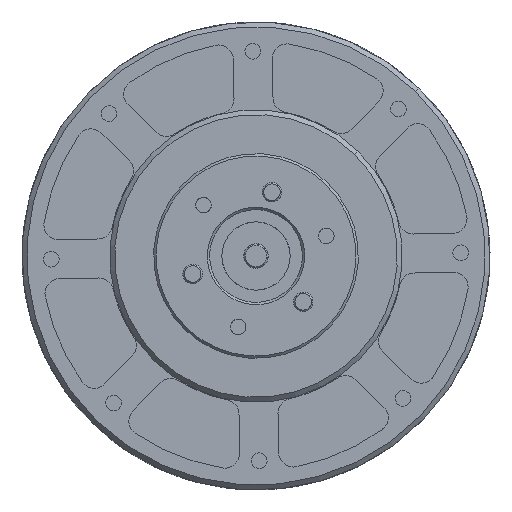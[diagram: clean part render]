
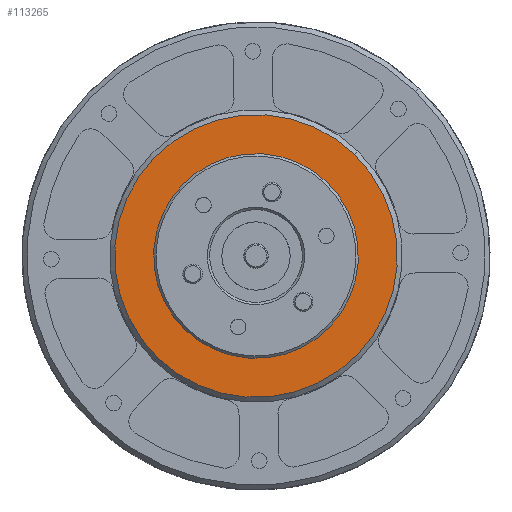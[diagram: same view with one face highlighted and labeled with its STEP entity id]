
A CAD part, left-side view. The second image highlights one B-rep face of the part: STEP entity #113265.
In plain terms, the highlighted planar face has unit normal (-1, 0, 0).
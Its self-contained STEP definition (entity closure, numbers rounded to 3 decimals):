
#2593 = CARTESIAN_POINT ( 'NONE',  ( 685.719, 227.693, 0. ) ) ;
#11439 = AXIS2_PLACEMENT_3D ( 'NONE', #2593, #199013, #58847 ) ;
#18013 = DIRECTION ( 'NONE',  ( 0., 0., 1. ) ) ;
#19945 = DIRECTION ( 'NONE',  ( 0., 0., -1. ) ) ;
#20762 = EDGE_CURVE ( 'NONE', #303356, #36987, #43434, .T. ) ;
#22755 = FACE_BOUND ( 'NONE', #134360, .T. ) ;
#36987 = VERTEX_POINT ( 'NONE', #125459 ) ;
#38526 = ORIENTED_EDGE ( 'NONE', *, *, #51524, .T. ) ;
#42191 = PLANE ( 'NONE',  #196382 ) ;
#43434 = CIRCLE ( 'NONE', #120591, 21. ) ;
#48850 = VERTEX_POINT ( 'NONE', #133911 ) ;
#51524 = EDGE_CURVE ( 'NONE', #36987, #303356, #296561, .T. ) ;
#58847 = DIRECTION ( 'NONE',  ( 0., 0., -1. ) ) ;
#90485 = FACE_OUTER_BOUND ( 'NONE', #138164, .T. ) ;
#113265 = ADVANCED_FACE ( 'NONE', ( #90485, #22755 ), #42191, .T. ) ;
#120591 = AXIS2_PLACEMENT_3D ( 'NONE', #195402, #266235, #242085 ) ;
#125459 = CARTESIAN_POINT ( 'NONE',  ( 685.719, 227.693, -21. ) ) ;
#133911 = CARTESIAN_POINT ( 'NONE',  ( 685.719, 227.693, -29. ) ) ;
#134360 = EDGE_LOOP ( 'NONE', ( #38526, #313794 ) ) ;
#137205 = CARTESIAN_POINT ( 'NONE',  ( 685.719, 227.693, 0. ) ) ;
#138164 = EDGE_LOOP ( 'NONE', ( #268115, #176153 ) ) ;
#139152 = DIRECTION ( 'NONE',  ( 1., 0., 0. ) ) ;
#140369 = DIRECTION ( 'NONE',  ( -1., 0., 0. ) ) ;
#141828 = EDGE_CURVE ( 'NONE', #199862, #48850, #186789, .T. ) ;
#169273 = CARTESIAN_POINT ( 'NONE',  ( 685.719, 256.693, 0. ) ) ;
#176153 = ORIENTED_EDGE ( 'NONE', *, *, #141828, .F. ) ;
#186789 = CIRCLE ( 'NONE', #248569, 29. ) ;
#190643 = CARTESIAN_POINT ( 'NONE',  ( 685.719, 227.693, 0. ) ) ;
#195402 = CARTESIAN_POINT ( 'NONE',  ( 685.719, 227.693, 0. ) ) ;
#196382 = AXIS2_PLACEMENT_3D ( 'NONE', #169273, #140369, #18013 ) ;
#199013 = DIRECTION ( 'NONE',  ( 1., 0., 0. ) ) ;
#199862 = VERTEX_POINT ( 'NONE', #289490 ) ;
#201757 = CIRCLE ( 'NONE', #11439, 29. ) ;
#226300 = DIRECTION ( 'NONE',  ( 0., 0., -1. ) ) ;
#228276 = EDGE_CURVE ( 'NONE', #48850, #199862, #201757, .T. ) ;
#229455 = DIRECTION ( 'NONE',  ( 1., 0., 0. ) ) ;
#242085 = DIRECTION ( 'NONE',  ( 0., 0., -1. ) ) ;
#248569 = AXIS2_PLACEMENT_3D ( 'NONE', #190643, #139152, #19945 ) ;
#265117 = AXIS2_PLACEMENT_3D ( 'NONE', #137205, #229455, #226300 ) ;
#266235 = DIRECTION ( 'NONE',  ( 1., 0., 0. ) ) ;
#268115 = ORIENTED_EDGE ( 'NONE', *, *, #228276, .F. ) ;
#289490 = CARTESIAN_POINT ( 'NONE',  ( 685.719, 227.693, 29. ) ) ;
#294667 = CARTESIAN_POINT ( 'NONE',  ( 685.719, 227.693, 21. ) ) ;
#296561 = CIRCLE ( 'NONE', #265117, 21. ) ;
#303356 = VERTEX_POINT ( 'NONE', #294667 ) ;
#313794 = ORIENTED_EDGE ( 'NONE', *, *, #20762, .T. ) ;
